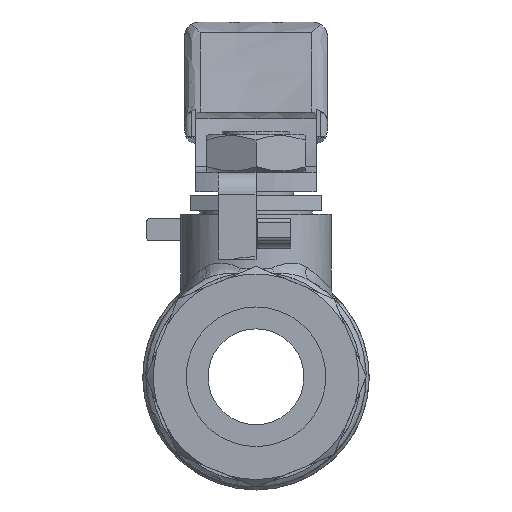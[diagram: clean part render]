
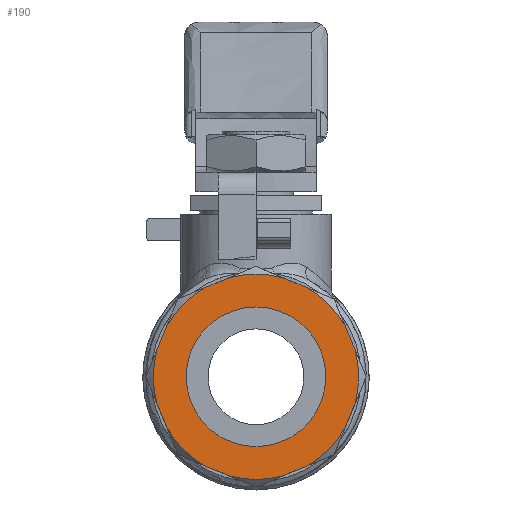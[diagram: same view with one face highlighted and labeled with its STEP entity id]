
A CAD part, left-side view. The second image highlights one B-rep face of the part: STEP entity #190.
In plain terms, the highlighted planar face has unit normal (-1, 0, 0).
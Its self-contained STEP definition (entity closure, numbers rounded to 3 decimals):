
#190=ADVANCED_FACE('',(#1736,#1737),#1735,.T.);
#1735=PLANE('',#3675);
#1736=FACE_OUTER_BOUND('',#3676,.T.);
#1737=FACE_BOUND('',#3677,.T.);
#3672=CARTESIAN_POINT('',(-26.5,-16.909,-16.909));
#3673=DIRECTION('',(-1.,0.,0.));
#3674=DIRECTION('',(0.,0.,1.));
#3675=AXIS2_PLACEMENT_3D('',#3672,#3673,#3674);
#3676=EDGE_LOOP('',(#4699,#4700,#4701,#4702,#4703,#4704,#4705,#4706,#4707,#4708,#4709,#4710,#4711,#4712,#4713,#4714));
#3677=EDGE_LOOP('',(#4715,#4716));
#4699=ORIENTED_EDGE('',*,*,#5333,.T.);
#4700=ORIENTED_EDGE('',*,*,#5342,.T.);
#4701=ORIENTED_EDGE('',*,*,#4934,.T.);
#4702=ORIENTED_EDGE('',*,*,#4943,.T.);
#4703=ORIENTED_EDGE('',*,*,#5324,.T.);
#4704=ORIENTED_EDGE('',*,*,#4949,.T.);
#4705=ORIENTED_EDGE('',*,*,#5322,.T.);
#4706=ORIENTED_EDGE('',*,*,#5343,.T.);
#4707=ORIENTED_EDGE('',*,*,#5325,.T.);
#4708=ORIENTED_EDGE('',*,*,#5302,.T.);
#4709=ORIENTED_EDGE('',*,*,#5327,.T.);
#4710=ORIENTED_EDGE('',*,*,#5309,.T.);
#4711=ORIENTED_EDGE('',*,*,#5328,.T.);
#4712=ORIENTED_EDGE('',*,*,#5344,.T.);
#4713=ORIENTED_EDGE('',*,*,#5330,.T.);
#4714=ORIENTED_EDGE('',*,*,#4932,.T.);
#4715=ORIENTED_EDGE('',*,*,#5345,.T.);
#4716=ORIENTED_EDGE('',*,*,#5346,.T.);
#4932=EDGE_CURVE('',#5433,#5426,#5434,.T.);
#4934=EDGE_CURVE('',#5446,#5447,#5448,.T.);
#4943=EDGE_CURVE('',#5447,#5502,#5509,.T.);
#4949=EDGE_CURVE('',#5550,#5543,#5551,.T.);
#5302=EDGE_CURVE('',#7900,#7893,#7901,.T.);
#5309=EDGE_CURVE('',#7948,#7941,#7949,.T.);
#5322=EDGE_CURVE('',#5543,#8030,#8031,.T.);
#5324=EDGE_CURVE('',#5502,#5550,#8043,.T.);
#5325=EDGE_CURVE('',#8049,#7900,#8050,.T.);
#5327=EDGE_CURVE('',#7893,#7948,#8062,.T.);
#5328=EDGE_CURVE('',#7941,#8068,#8069,.T.);
#5330=EDGE_CURVE('',#8081,#5433,#8082,.T.);
#5333=EDGE_CURVE('',#5426,#8094,#8101,.T.);
#5342=EDGE_CURVE('',#8094,#5446,#8163,.T.);
#5343=EDGE_CURVE('',#8030,#8049,#8169,.T.);
#5344=EDGE_CURVE('',#8068,#8081,#8175,.T.);
#5345=EDGE_CURVE('',#8181,#8182,#8183,.T.);
#5346=EDGE_CURVE('',#8182,#8181,#8189,.T.);
#5426=VERTEX_POINT('',#8502);
#5433=VERTEX_POINT('',#8511);
#5434=LINE('',#8512,#8513);
#5446=VERTEX_POINT('',#8523);
#5447=VERTEX_POINT('',#8524);
#5448=CIRCLE('',#8528,13.6);
#5502=VERTEX_POINT('',#8584);
#5509=LINE('',#8593,#8594);
#5543=VERTEX_POINT('',#8630);
#5550=VERTEX_POINT('',#8639);
#5551=LINE('',#8640,#8641);
#7893=VERTEX_POINT('',#10683);
#7900=VERTEX_POINT('',#10692);
#7901=LINE('',#10693,#10694);
#7941=VERTEX_POINT('',#10738);
#7948=VERTEX_POINT('',#10747);
#7949=LINE('',#10748,#10749);
#8030=VERTEX_POINT('',#10838);
#8031=CIRCLE('',#10842,13.6);
#8043=CIRCLE('',#10854,13.6);
#8049=VERTEX_POINT('',#10855);
#8050=CIRCLE('',#10859,13.6);
#8062=CIRCLE('',#10871,13.6);
#8068=VERTEX_POINT('',#10872);
#8069=CIRCLE('',#10876,13.6);
#8081=VERTEX_POINT('',#10885);
#8082=CIRCLE('',#10889,13.6);
#8094=VERTEX_POINT('',#10898);
#8101=CIRCLE('',#10910,13.6);
#8163=LINE('',#10951,#10952);
#8169=LINE('',#10954,#10955);
#8175=LINE('',#10957,#10958);
#8181=VERTEX_POINT('',#10960);
#8182=VERTEX_POINT('',#10961);
#8183=CIRCLE('',#10965,9.251);
#8189=CIRCLE('',#10969,9.251);
#8502=CARTESIAN_POINT('',(-26.5,-11.797,6.766));
#8511=CARTESIAN_POINT('',(-26.5,-13.127,3.557));
#8512=CARTESIAN_POINT('',(-26.5,-13.127,3.557));
#8513=VECTOR('',#8514,3.474);
#8514=DIRECTION('',(0.,0.383,0.924));
#8523=CARTESIAN_POINT('',(-26.5,-3.557,13.127));
#8524=CARTESIAN_POINT('',(-26.5,3.557,13.127));
#8525=CARTESIAN_POINT('',(-26.5,0.,0.));
#8526=DIRECTION('',(-1.,0.,0.));
#8527=DIRECTION('',(0.,0.,-1.));
#8528=AXIS2_PLACEMENT_3D('',#8525,#8526,#8527);
#8584=CARTESIAN_POINT('',(-26.5,6.766,11.797));
#8593=CARTESIAN_POINT('',(-26.5,3.557,13.127));
#8594=VECTOR('',#8595,3.474);
#8595=DIRECTION('',(0.,0.924,-0.383));
#8630=CARTESIAN_POINT('',(-26.5,13.127,3.557));
#8639=CARTESIAN_POINT('',(-26.5,11.797,6.766));
#8640=CARTESIAN_POINT('',(-26.5,11.797,6.766));
#8641=VECTOR('',#8642,3.474);
#8642=DIRECTION('',(0.,0.383,-0.924));
#10683=CARTESIAN_POINT('',(-26.5,3.557,-13.127));
#10692=CARTESIAN_POINT('',(-26.5,6.766,-11.797));
#10693=CARTESIAN_POINT('',(-26.5,6.766,-11.797));
#10694=VECTOR('',#10695,3.474);
#10695=DIRECTION('',(0.,-0.924,-0.383));
#10738=CARTESIAN_POINT('',(-26.5,-6.766,-11.797));
#10747=CARTESIAN_POINT('',(-26.5,-3.557,-13.127));
#10748=CARTESIAN_POINT('',(-26.5,-3.557,-13.127));
#10749=VECTOR('',#10750,3.474);
#10750=DIRECTION('',(0.,-0.924,0.383));
#10838=CARTESIAN_POINT('',(-26.5,13.127,-3.557));
#10839=CARTESIAN_POINT('',(-26.5,0.,0.));
#10840=DIRECTION('',(-1.,0.,0.));
#10841=DIRECTION('',(0.,0.,-1.));
#10842=AXIS2_PLACEMENT_3D('',#10839,#10840,#10841);
#10851=CARTESIAN_POINT('',(-26.5,0.,0.));
#10852=DIRECTION('',(-1.,0.,0.));
#10853=DIRECTION('',(0.,0.,-1.));
#10854=AXIS2_PLACEMENT_3D('',#10851,#10852,#10853);
#10855=CARTESIAN_POINT('',(-26.5,11.797,-6.766));
#10856=CARTESIAN_POINT('',(-26.5,0.,0.));
#10857=DIRECTION('',(-1.,0.,0.));
#10858=DIRECTION('',(0.,0.,-1.));
#10859=AXIS2_PLACEMENT_3D('',#10856,#10857,#10858);
#10868=CARTESIAN_POINT('',(-26.5,0.,0.));
#10869=DIRECTION('',(-1.,0.,0.));
#10870=DIRECTION('',(0.,0.262,-0.965));
#10871=AXIS2_PLACEMENT_3D('',#10868,#10869,#10870);
#10872=CARTESIAN_POINT('',(-26.5,-11.797,-6.766));
#10873=CARTESIAN_POINT('',(-26.5,0.,0.));
#10874=DIRECTION('',(-1.,0.,0.));
#10875=DIRECTION('',(0.,0.,-1.));
#10876=AXIS2_PLACEMENT_3D('',#10873,#10874,#10875);
#10885=CARTESIAN_POINT('',(-26.5,-13.127,-3.557));
#10886=CARTESIAN_POINT('',(-26.5,0.,0.));
#10887=DIRECTION('',(-1.,0.,0.));
#10888=DIRECTION('',(0.,0.,-1.));
#10889=AXIS2_PLACEMENT_3D('',#10886,#10887,#10888);
#10898=CARTESIAN_POINT('',(-26.5,-6.766,11.797));
#10907=CARTESIAN_POINT('',(-26.5,0.,0.));
#10908=DIRECTION('',(-1.,0.,0.));
#10909=DIRECTION('',(0.,0.,-1.));
#10910=AXIS2_PLACEMENT_3D('',#10907,#10908,#10909);
#10951=CARTESIAN_POINT('',(-26.5,-6.766,11.797));
#10952=VECTOR('',#10953,3.474);
#10953=DIRECTION('',(0.,0.924,0.383));
#10954=CARTESIAN_POINT('',(-26.5,13.127,-3.557));
#10955=VECTOR('',#10956,3.474);
#10956=DIRECTION('',(0.,-0.383,-0.924));
#10957=CARTESIAN_POINT('',(-26.5,-11.797,-6.766));
#10958=VECTOR('',#10959,3.474);
#10959=DIRECTION('',(0.,-0.383,0.924));
#10960=CARTESIAN_POINT('',(-26.5,0.,9.251));
#10961=CARTESIAN_POINT('',(-26.5,0.,-9.251));
#10962=CARTESIAN_POINT('',(-26.5,0.,0.));
#10963=DIRECTION('',(1.,0.,0.));
#10964=DIRECTION('',(0.,0.,1.));
#10965=AXIS2_PLACEMENT_3D('',#10962,#10963,#10964);
#10966=CARTESIAN_POINT('',(-26.5,0.,0.));
#10967=DIRECTION('',(1.,0.,0.));
#10968=DIRECTION('',(0.,0.,1.));
#10969=AXIS2_PLACEMENT_3D('',#10966,#10967,#10968);
